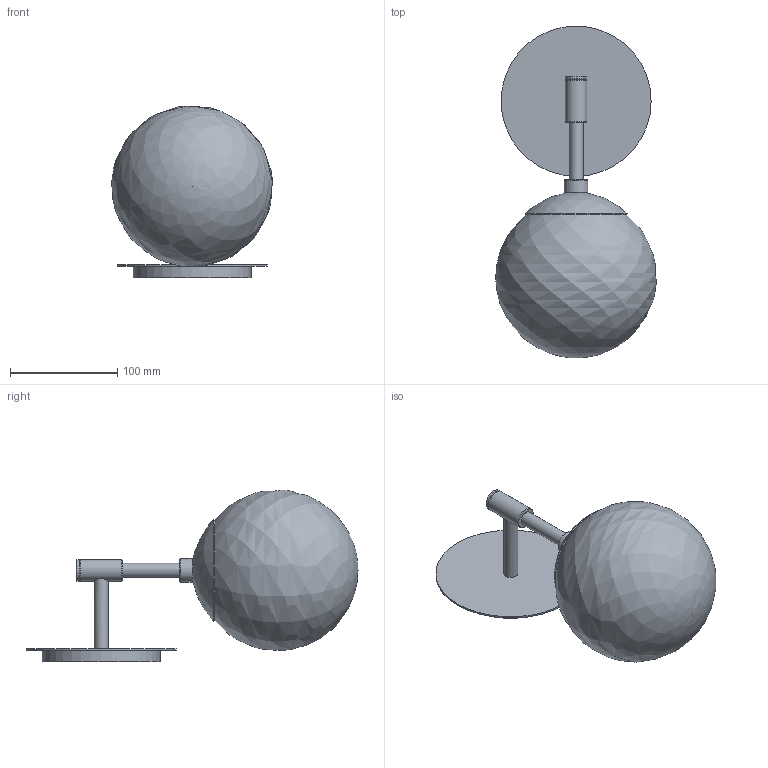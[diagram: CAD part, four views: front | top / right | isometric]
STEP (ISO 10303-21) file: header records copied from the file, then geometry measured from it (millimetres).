
FILE_DESCRIPTION(/* description */ (''),/* implementation_level */ '2;1');
FILE_NAME(/* name */ '',/* time_stamp */ '2022-10-12T14:33:21+02:00',/* author */ ('Mariusz Awariusz'),/* organization */ (''),/* preprocessor_version */ 'ST-DEVELOPER v19.2',/* originating_system */ 'Autodesk Inventor 2023',/* authorisation */ '');
FILE_SCHEMA (('AUTOMOTIVE_DESIGN { 1 0 10303 214 3 1 1 }'));
Length unit declared in the file: millimetre
Products named in the file (1): B647 Sunset Wall Sconce_jako część
Bounding box: 149.87 x 309.62 x 160.33 mm (x, y, z)
Volume: 614137.8 mm3; surface area: 413315.8 mm2
Topology: 11 solids, 11 shells, 88 faces, 144 edges, 90 vertices
Faces by surface type: plane 30, cylinder 26, cone 20, sphere 4, torus 4, bspline 4
Full cylindrical faces by diameter (mm): 8.6 x1, 10 x1, 11.6 x2, 13 x7, 16 x3, 20 x4, 22 x2, 50.221 x2, 110 x2, 140 x2
Entity records: 2265 total; most frequent: CARTESIAN_POINT 528, DIRECTION 402, ORIENTED_EDGE 280, AXIS2_PLACEMENT_3D 178, EDGE_CURVE 140, EDGE_LOOP 106, CIRCLE 93, VERTEX_POINT 90
